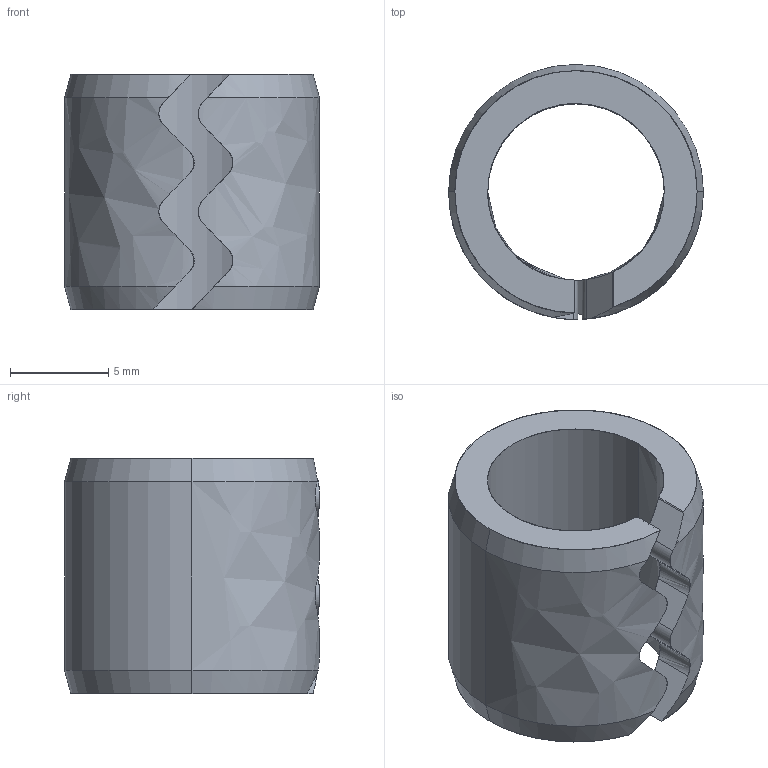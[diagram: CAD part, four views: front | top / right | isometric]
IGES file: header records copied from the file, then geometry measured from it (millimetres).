
Global section: file name: E:\UnigraphicsGraphicData\MISUMI_PRESS-PARTS\IGES\3d_swa13_00410_r00.igs; native system: NX V5.0; preprocessor: UGS NX IGES V5.0; author: MISUMI; date: 20110105.163250; units: millimetre
Bounding box: 13 x 13 x 12 mm (x, y, z)
Surface area: 949.2 mm2 (no closed solid volume)
Topology: 0 solids, 0 shells, 34 faces, 218 edges, 218 vertices
Faces by surface type: bspline 34
